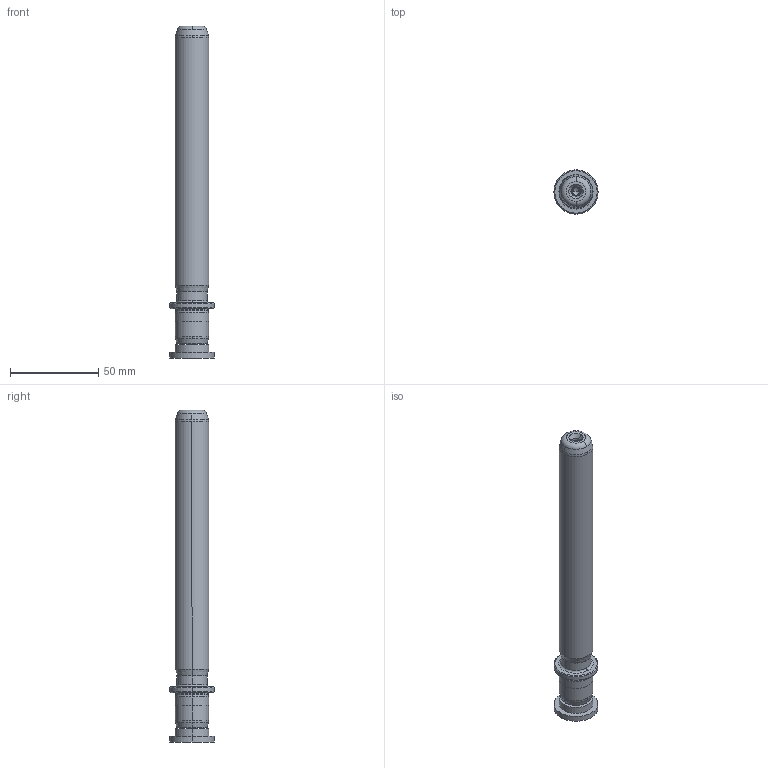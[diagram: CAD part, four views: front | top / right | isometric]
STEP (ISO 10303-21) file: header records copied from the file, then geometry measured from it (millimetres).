
FILE_DESCRIPTION((''),'2;1');
FILE_NAME('P22_019_160.stp','2009-02-02T11:04:38',(''),(''),'Mechanical Desktop 2009','Mechanical Desktop 2009',', , ');
FILE_SCHEMA(('CONFIG_CONTROL_DESIGN'));
Length unit declared in the file: millimetre
Products named in the file (2): Product; blmdl1
Assembly tree (1 placements, depth 2):
  Product
    blmdl1
Bounding box: 25 x 25 x 188 mm (x, y, z)
Volume: 53067 mm3; surface area: 14133.7 mm2
Topology: 3 solids, 3 shells, 99 faces, 237 edges, 149 vertices
Faces by surface type: cylinder 32, cone 28, plane 19, bspline 14, torus 6
Entity records: 3507 total; most frequent: CARTESIAN_POINT 1027, DIRECTION 562, ORIENTED_EDGE 466, AXIS2_PLACEMENT_3D 242, EDGE_CURVE 233, CIRCLE 155, VERTEX_POINT 149, EDGE_LOOP 110
